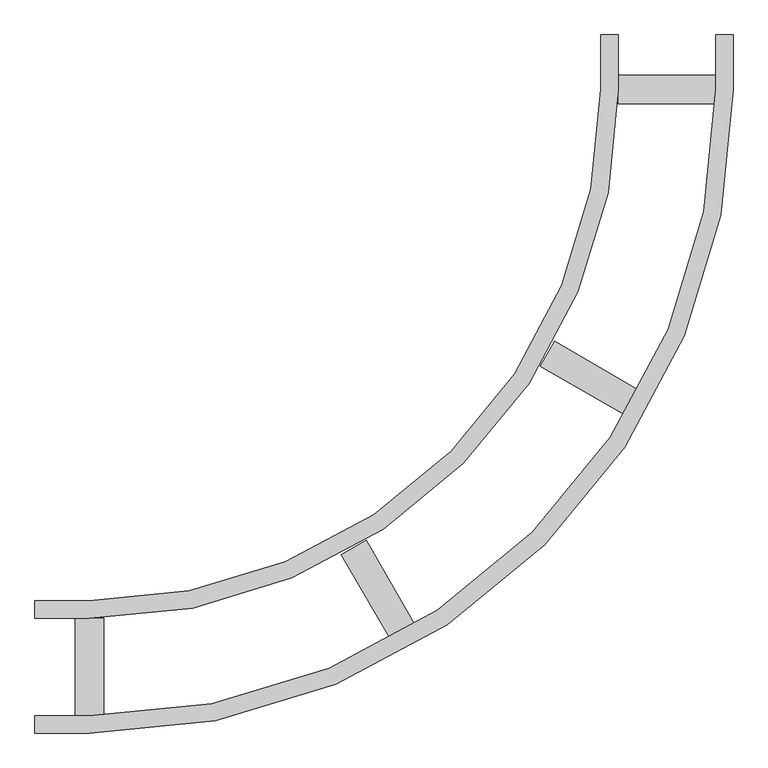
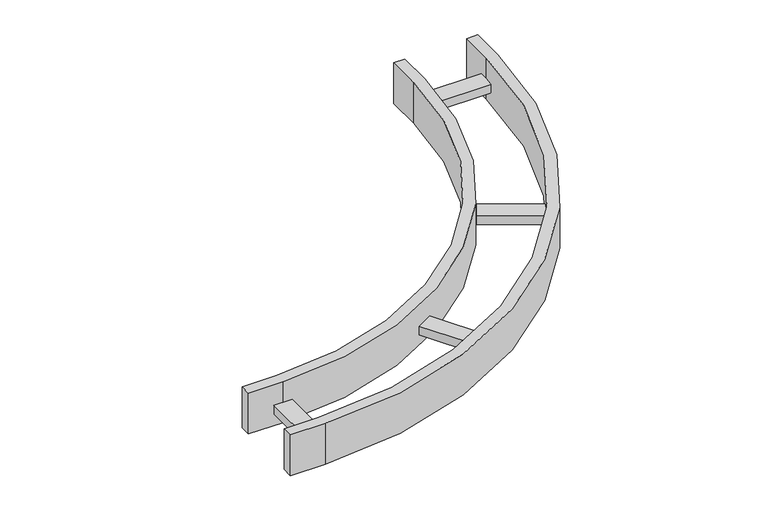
"""IFC4 building model written with IfcOpenShell, lengths in millimetres: cable carrier fitting geometry, Legrand_CableLadder_Swifts_Topaz_FlatBend-13 : Hot Dip Galvanised (after manufacture)."""

from ifc_helpers import new_model, si_unit, point, frame, frame_2d, origin, place, context, project, spatial, polyline, circle_curve, trimmed, segment, composite_curve, outline, extrude, source, transform, mapped, element, save


def cable_carrier_fitting_b2eab60c(model_context):
    return source(origin(), model_context, "Body", "SweptSolid", [
        extrude(outline(polyline([(-405.9365335, 41.0556666), (-477.4365335, 164.8972994), (-441.0634665, 185.8972994), (-369.5634665, 62.0556666), (-405.9365335, 41.0556666)])), frame((0.0, 0.0, -21.0), z_axis=(0.0, 0.0, 1.0), x_axis=(1.0, 0.0, 0.0)), (0.0, 0.0, 1.0), 21.0),
        extrude(outline(polyline([(-62.0556666, 369.5634665), (-185.8972994, 441.0634665), (-164.8972994, 477.4365335), (-41.0556666, 405.9365335), (-62.0556666, 369.5634665)])), frame((0.0, 0.0, -21.0), z_axis=(0.0, 0.0, 1.0), x_axis=(1.0, 0.0, 0.0)), (0.0, 0.0, 1.0), 21.0),
        extrude(outline(polyline([(-868.0, -71.5), (-868.0, 71.5), (-826.0, 71.5), (-826.0, -71.5), (-868.0, -71.5)])), frame((0.0, 0.0, -21.0), z_axis=(0.0, 0.0, 1.0), x_axis=(1.0, 0.0, 0.0)), (0.0, 0.0, 1.0), 21.0),
        extrude(outline(polyline([(71.5, 826.0), (-71.5, 826.0), (-71.5, 868.0), (71.5, 868.0), (71.5, 826.0)])), frame((0.0, 0.0, -21.0), z_axis=(0.0, 0.0, 1.0), x_axis=(1.0, 0.0, 0.0)), (0.0, 0.0, 1.0), 21.0),
        extrude(outline(composite_curve([segment(polyline([(-927.0, -97.0), (-927.0, -71.5), (-847.0, -71.5)]), True, "CONTINUOUS"), segment(trimmed(circle_curve(frame_2d((-847.0, 847.0)), 918.5), [point((-847.0, -71.5))], [point((71.5, 847.0))], True, "CARTESIAN"), True, "CONTINUOUS"), segment(polyline([(71.5, 847.0), (71.5, 927.0), (97.0, 927.0), (97.0, 847.0)]), True, "CONTINUOUS"), segment(trimmed(circle_curve(frame_2d((-847.0, 847.0)), 944.0), [point((97.0, 847.0))], [point((-847.0, -97.0))], False, "CARTESIAN"), True, "CONTINUOUS"), segment(polyline([(-847.0, -97.0), (-927.0, -97.0)]), True, "CONTINUOUS")], self_intersect=False)), frame((0.0, 0.0, -50.0), z_axis=(0.0, 0.0, 1.0), x_axis=(1.0, 0.0, 0.0)), (0.0, 0.0, 1.0), 100.0),
        extrude(outline(composite_curve([segment(polyline([(-927.0, 71.5), (-927.0, 97.0), (-847.0, 97.0)]), True, "CONTINUOUS"), segment(trimmed(circle_curve(frame_2d((-847.0, 847.0)), 750.0), [point((-847.0, 97.0))], [point((-97.0, 847.0))], True, "CARTESIAN"), True, "CONTINUOUS"), segment(polyline([(-97.0, 847.0), (-97.0, 927.0), (-71.5, 927.0), (-71.5, 847.0)]), True, "CONTINUOUS"), segment(trimmed(circle_curve(frame_2d((-847.0, 847.0)), 775.5), [point((-71.5, 847.0))], [point((-847.0, 71.5))], False, "CARTESIAN"), True, "CONTINUOUS"), segment(polyline([(-847.0, 71.5), (-927.0, 71.5)]), True, "CONTINUOUS")], self_intersect=False)), frame((0.0, 0.0, -50.0), z_axis=(0.0, 0.0, 1.0), x_axis=(1.0, 0.0, 0.0)), (0.0, 0.0, 1.0), 100.0),
    ])


if __name__ == "__main__":
    model = new_model("IFC4")
    model_context = context("Model", 3, world=origin())
    ifc_project = project(units=[si_unit("LENGTHUNIT", "METRE", prefix="MILLI")], contexts=[model_context])
    site = spatial("IfcSite", under=ifc_project)
    building = spatial("IfcBuilding", under=site)
    placement = place(None, origin())
    cable_carrier_fitting_shape = cable_carrier_fitting_b2eab60c(model_context)
    element("IfcCableCarrierFitting", 1, ObjectType="Legrand_CableLadder_Swifts_Topaz_FlatBend-13 : Hot Dip Galvanised (after manufacture)", at=placement, inside=building, context=model_context, shape_type="MappedRepresentation", body=[
        mapped(cable_carrier_fitting_shape, transform((0.0, 0.0, 0.0), x_axis=(1.0, 0.0, 0.0), y_axis=(0.0, 1.0, 0.0), z_axis=(0.0, 0.0, 1.0))),
    ])
    save(model, "model.ifc")
